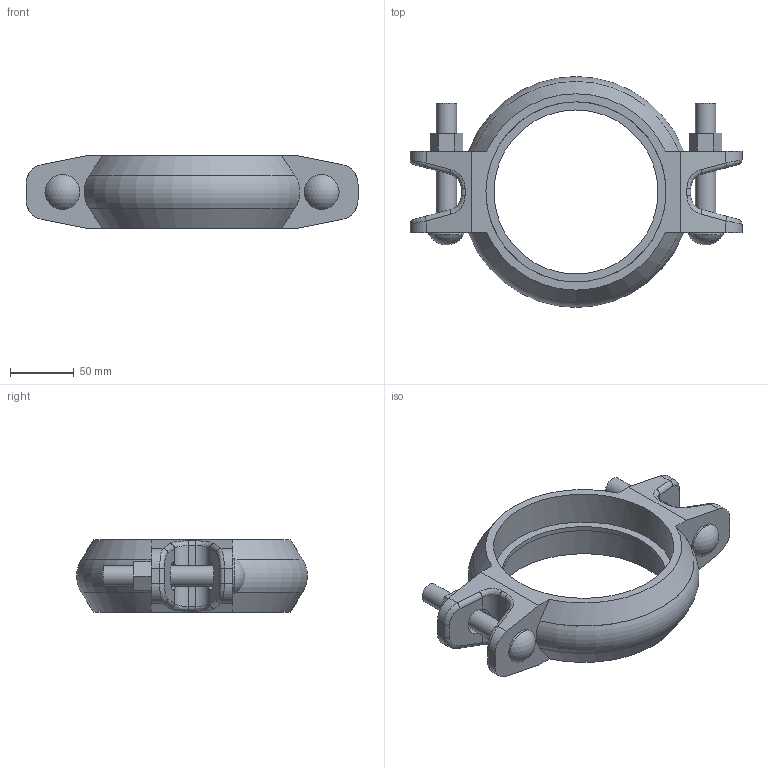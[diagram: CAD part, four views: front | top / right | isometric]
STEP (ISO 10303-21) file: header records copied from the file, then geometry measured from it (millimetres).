
FILE_DESCRIPTION(/* description */ ('QUICKVIC RIGID COUPLING FOR STEEL STYLE 107N','CAx-IF Rec.Pracs.---Representation and Presentation of Product Manufacturing Information (PMI)---4.0---2014-10-13'),/* implementation_level */ '2;1');
FILE_NAME(/* name */ 'C:\Users\Vjadhav\Desktop\CAD for Inventor\1\Coupling bolt thickness\107N\STEP\Victaulic_IPS_Coupling Rigid_Style 107N (OGS)\Victaulic_IPS_Coupling Rigid_Style 107N (OGS)_5 (125).stp',/* time_stamp */ '2022-03-28T14:19:23+06:00',/* author */ ('jheald'),/* organization */ ('Victaulic'),/* preprocessor_version */ 'ST-DEVELOPER v17.2',/* originating_system */ 'Autodesk Inventor 2019',/* authorisation */ '');
FILE_SCHEMA (('AP242_MANAGED_MODEL_BASED_3D_ENGINEERING_MIM_LF { 1 0 10303 442 1 1 4 }'));
Length unit declared in the file: inch
Products named in the file (1): 107N-05.0
Bounding box: 260.35 x 181.05 x 57.15 mm (x, y, z)
Volume: 614563.5 mm3; surface area: 106066.8 mm2
Topology: 1 solids, 1 shells, 123 faces, 327 edges, 210 vertices
Faces by surface type: plane 50, cylinder 45, bspline 16, torus 6, cone 4, sphere 2
Full cylindrical faces by diameter (mm): 15.875 x4, 27.381 x2, 128.6 x1, 141.3 x2
Entity records: 4680 total; most frequent: CARTESIAN_POINT 1334, DIRECTION 675, ORIENTED_EDGE 654, EDGE_CURVE 327, AXIS2_PLACEMENT_3D 255, VERTEX_POINT 210, LINE 165, VECTOR 165
